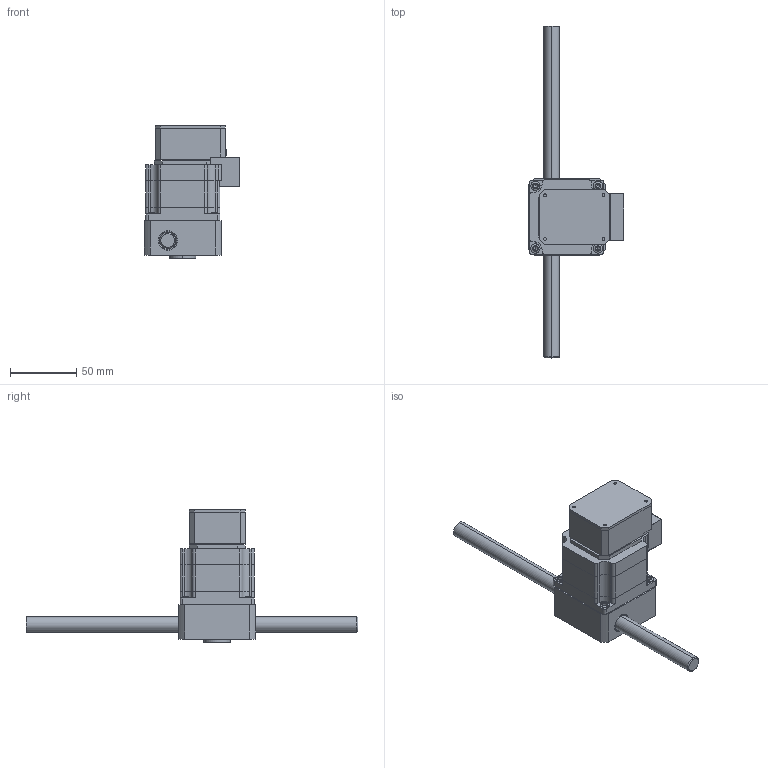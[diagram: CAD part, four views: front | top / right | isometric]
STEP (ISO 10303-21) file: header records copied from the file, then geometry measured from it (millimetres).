
FILE_DESCRIPTION (( 'STEP AP203' ), '1' );
FILE_NAME ('RRA-23.STEP', '2010-05-31T12:57:49', ( 'render' ), ( '' ), 'SwSTEP 2.0', 'SolidWorks 2009', '' );
FILE_SCHEMA (( 'CONFIG_CONTROL_DESIGN' ));
Length unit declared in the file: millimetre
Products named in the file (1): RRA-23
Bounding box: 72 x 250 x 100.05 mm (x, y, z)
Volume: 254565.6 mm3; surface area: 90098.1 mm2
Topology: 19 solids, 19 shells, 1079 faces, 2829 edges, 1797 vertices
Faces by surface type: plane 709, cylinder 304, cone 64, bspline 2
Entity records: 33076 total; most frequent: CARTESIAN_POINT 5951, DIRECTION 5645, ORIENTED_EDGE 5606, EDGE_CURVE 2803, LINE 2087, VECTOR 2087, VERTEX_POINT 1797, AXIS2_PLACEMENT_3D 1779
